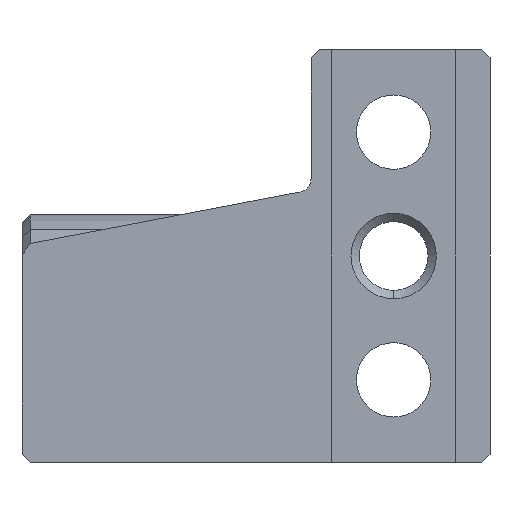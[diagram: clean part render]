
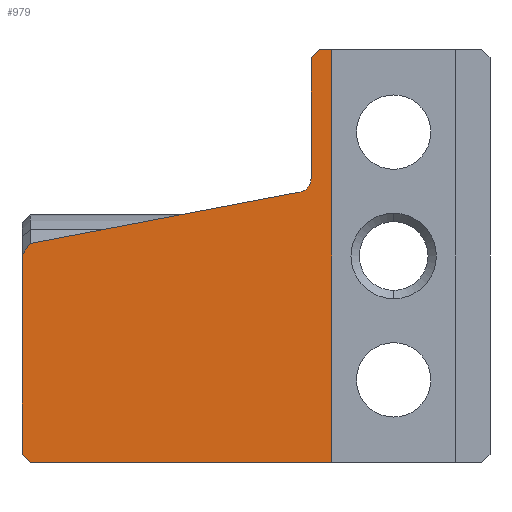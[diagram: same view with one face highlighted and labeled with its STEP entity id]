
A CAD part, front view. The second image highlights one B-rep face of the part: STEP entity #979.
In plain terms, the highlighted planar face has unit normal (0, -1, 0).
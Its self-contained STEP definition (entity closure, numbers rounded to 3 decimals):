
#2 = VERTEX_POINT ( 'NONE', #1494 ) ;
#26 = LINE ( 'NONE', #304, #916 ) ;
#47 = CARTESIAN_POINT ( 'NONE',  ( -10., 0., 7.523 ) ) ;
#76 = LINE ( 'NONE', #627, #1889 ) ;
#114 = VECTOR ( 'NONE', #1612, 1000. ) ;
#143 = VERTEX_POINT ( 'NONE', #1728 ) ;
#146 = EDGE_CURVE ( 'NONE', #2176, #2, #26, .T. ) ;
#172 = EDGE_CURVE ( 'NONE', #571, #942, #961, .T. ) ;
#173 = ORIENTED_EDGE ( 'NONE', *, *, #1631, .T. ) ;
#186 = DIRECTION ( 'NONE',  ( 0.707, 0., -0.707 ) ) ;
#227 = ORIENTED_EDGE ( 'NONE', *, *, #1345, .T. ) ;
#236 = ORIENTED_EDGE ( 'NONE', *, *, #1837, .T. ) ;
#263 = PLANE ( 'NONE',  #895 ) ;
#275 = DIRECTION ( 'NONE',  ( 0., 0., 1. ) ) ;
#302 = LINE ( 'NONE', #1656, #1190 ) ;
#304 = CARTESIAN_POINT ( 'NONE',  ( 0.8, 0., 15. ) ) ;
#357 = CARTESIAN_POINT ( 'NONE',  ( 0., 0., 15. ) ) ;
#401 = EDGE_CURVE ( 'NONE', #1639, #1262, #1430, .T. ) ;
#431 = VECTOR ( 'NONE', #646, 1000. ) ;
#486 = DIRECTION ( 'NONE',  ( 1., 0., 0. ) ) ;
#529 = CARTESIAN_POINT ( 'NONE',  ( -10., 0., 0.3 ) ) ;
#534 = VECTOR ( 'NONE', #186, 1000. ) ;
#571 = VERTEX_POINT ( 'NONE', #1952 ) ;
#575 = EDGE_CURVE ( 'NONE', #1868, #1204, #748, .T. ) ;
#587 = ORIENTED_EDGE ( 'NONE', *, *, #662, .F. ) ;
#600 = CARTESIAN_POINT ( 'NONE',  ( 0., 0., 0. ) ) ;
#615 = ORIENTED_EDGE ( 'NONE', *, *, #1082, .T. ) ;
#627 = CARTESIAN_POINT ( 'NONE',  ( 0.5, 0., 15. ) ) ;
#628 = DIRECTION ( 'NONE',  ( 0., 1., 0. ) ) ;
#634 = VECTOR ( 'NONE', #1799, 1000. ) ;
#646 = DIRECTION ( 'NONE',  ( -0.562, 0., -0.827 ) ) ;
#662 = EDGE_CURVE ( 'NONE', #2176, #1317, #941, .T. ) ;
#702 = ORIENTED_EDGE ( 'NONE', *, *, #1405, .F. ) ;
#748 = CIRCLE ( 'NONE', #1346, 0.5 ) ;
#798 = CARTESIAN_POINT ( 'NONE',  ( -10., 0., 15. ) ) ;
#855 = LINE ( 'NONE', #2094, #431 ) ;
#858 = CARTESIAN_POINT ( 'NONE',  ( 0., 0., 10.314 ) ) ;
#895 = AXIS2_PLACEMENT_3D ( 'NONE', #1891, #628, #1902 ) ;
#916 = VECTOR ( 'NONE', #1562, 1000. ) ;
#936 = VECTOR ( 'NONE', #275, 1000. ) ;
#941 = LINE ( 'NONE', #357, #114 ) ;
#942 = VERTEX_POINT ( 'NONE', #1881 ) ;
#961 = LINE ( 'NONE', #600, #1338 ) ;
#979 = ADVANCED_FACE ( 'NONE', ( #2141 ), #263, .F. ) ;
#1006 = CARTESIAN_POINT ( 'NONE',  ( 0.8, 0., 15. ) ) ;
#1035 = ORIENTED_EDGE ( 'NONE', *, *, #401, .F. ) ;
#1037 = DIRECTION ( 'NONE',  ( 0., 0., 1. ) ) ;
#1041 = CARTESIAN_POINT ( 'NONE',  ( -10., 0., 0.3 ) ) ;
#1082 = EDGE_CURVE ( 'NONE', #1639, #571, #1542, .T. ) ;
#1107 = LINE ( 'NONE', #2331, #634 ) ;
#1153 = DIRECTION ( 'NONE',  ( 0., 0., -1. ) ) ;
#1190 = VECTOR ( 'NONE', #1508, 1000. ) ;
#1204 = VERTEX_POINT ( 'NONE', #1611 ) ;
#1241 = ORIENTED_EDGE ( 'NONE', *, *, #172, .T. ) ;
#1262 = VERTEX_POINT ( 'NONE', #47 ) ;
#1317 = VERTEX_POINT ( 'NONE', #1706 ) ;
#1338 = VECTOR ( 'NONE', #486, 1000. ) ;
#1345 = EDGE_CURVE ( 'NONE', #2, #1868, #76, .T. ) ;
#1346 = AXIS2_PLACEMENT_3D ( 'NONE', #858, #2132, #1037 ) ;
#1405 = EDGE_CURVE ( 'NONE', #1317, #942, #1107, .T. ) ;
#1430 = LINE ( 'NONE', #798, #936 ) ;
#1494 = CARTESIAN_POINT ( 'NONE',  ( 0.5, 0., 14.7 ) ) ;
#1508 = DIRECTION ( 'NONE',  ( -0.982, 0., -0.187 ) ) ;
#1542 = LINE ( 'NONE', #529, #534 ) ;
#1562 = DIRECTION ( 'NONE',  ( -0.707, 0., -0.707 ) ) ;
#1611 = CARTESIAN_POINT ( 'NONE',  ( 0.094, 0., 9.823 ) ) ;
#1612 = DIRECTION ( 'NONE',  ( 1., 0., 0. ) ) ;
#1631 = EDGE_CURVE ( 'NONE', #1204, #143, #302, .T. ) ;
#1639 = VERTEX_POINT ( 'NONE', #1041 ) ;
#1656 = CARTESIAN_POINT ( 'NONE',  ( 0.5, 0., 9.9 ) ) ;
#1706 = CARTESIAN_POINT ( 'NONE',  ( 1.25, 0., 15. ) ) ;
#1722 = CARTESIAN_POINT ( 'NONE',  ( 0.5, 0., 10.314 ) ) ;
#1728 = CARTESIAN_POINT ( 'NONE',  ( -9.705, 0., 7.956 ) ) ;
#1799 = DIRECTION ( 'NONE',  ( 0., 0., -1. ) ) ;
#1837 = EDGE_CURVE ( 'NONE', #143, #1262, #855, .T. ) ;
#1868 = VERTEX_POINT ( 'NONE', #1722 ) ;
#1881 = CARTESIAN_POINT ( 'NONE',  ( 1.25, 0., 0. ) ) ;
#1889 = VECTOR ( 'NONE', #1153, 1000. ) ;
#1891 = CARTESIAN_POINT ( 'NONE',  ( 0., 0., 15. ) ) ;
#1902 = DIRECTION ( 'NONE',  ( 0., 0., 1. ) ) ;
#1952 = CARTESIAN_POINT ( 'NONE',  ( -9.7, 0., 0. ) ) ;
#2030 = ORIENTED_EDGE ( 'NONE', *, *, #146, .T. ) ;
#2068 = ORIENTED_EDGE ( 'NONE', *, *, #575, .T. ) ;
#2094 = CARTESIAN_POINT ( 'NONE',  ( -10., 0., 7.523 ) ) ;
#2132 = DIRECTION ( 'NONE',  ( 0., 1., 0. ) ) ;
#2141 = FACE_OUTER_BOUND ( 'NONE', #2221, .T. ) ;
#2176 = VERTEX_POINT ( 'NONE', #1006 ) ;
#2221 = EDGE_LOOP ( 'NONE', ( #173, #236, #1035, #615, #1241, #702, #587, #2030, #227, #2068 ) ) ;
#2331 = CARTESIAN_POINT ( 'NONE',  ( 1.25, 0., 15. ) ) ;
